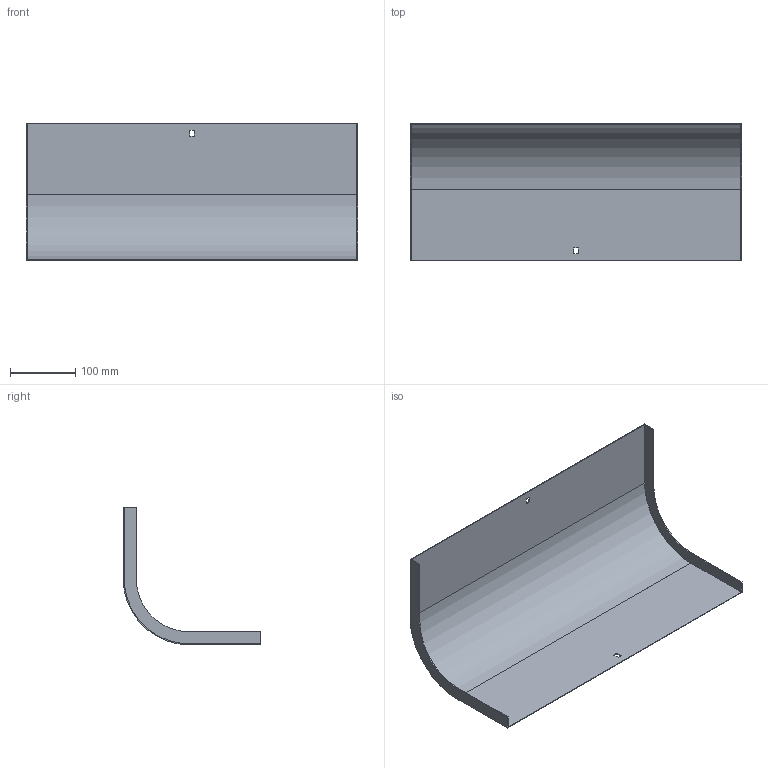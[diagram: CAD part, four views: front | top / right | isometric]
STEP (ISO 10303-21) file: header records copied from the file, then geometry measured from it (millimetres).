
FILE_DESCRIPTION (( 'STEP AP214' ), '1' );
FILE_NAME ('33G1C500.step', '2025-02-21T12:45:01', ( '' ), ( '' ), 'SwSTEP 2.0', 'SolidWorks 2023', '' );
FILE_SCHEMA (( 'AUTOMOTIVE_DESIGN' ));
Length unit declared in the file: millimetre
Products named in the file (1): 33G1C500
Bounding box: 507 x 210.5 x 210.5 mm (x, y, z)
Volume: 305979 mm3; surface area: 410738.6 mm2
Topology: 1 solids, 1 shells, 26 faces, 72 edges, 48 vertices
Faces by surface type: plane 22, cylinder 4
Entity records: 855 total; most frequent: CARTESIAN_POINT 147, ORIENTED_EDGE 144, DIRECTION 134, EDGE_CURVE 72, LINE 64, VECTOR 64, VERTEX_POINT 48, AXIS2_PLACEMENT_3D 35
